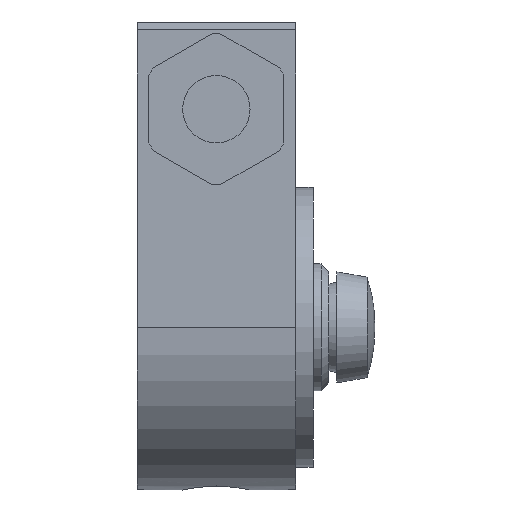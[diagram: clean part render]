
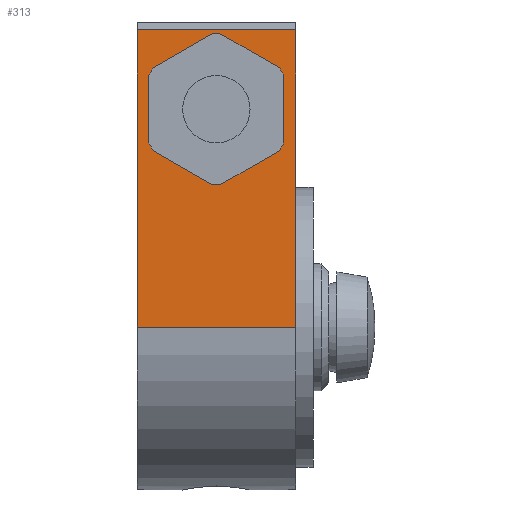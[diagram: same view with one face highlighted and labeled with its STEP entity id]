
A CAD part, left-side view. The second image highlights one B-rep face of the part: STEP entity #313.
In plain terms, the highlighted planar face has unit normal (-1, 0, 0).
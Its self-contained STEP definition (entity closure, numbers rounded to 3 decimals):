
#313=ADVANCED_FACE('',(#983,#984),#982,.T.);
#982=PLANE('',#2586);
#983=FACE_OUTER_BOUND('',#2587,.T.);
#984=FACE_BOUND('',#2588,.T.);
#2583=CARTESIAN_POINT('',(10.,-12.,-31.25));
#2584=DIRECTION('',(-1.,0.,0.));
#2585=DIRECTION('',(0.,0.,1.));
#2586=AXIS2_PLACEMENT_3D('',#2583,#2584,#2585);
#2587=EDGE_LOOP('',(#3632,#3633,#3634,#3635));
#2588=EDGE_LOOP('',(#3636,#3637,#3638,#3639,#3640,#3641,#3642,#3643,#3644,#3645,#3646,#3647));
#3632=ORIENTED_EDGE('',*,*,#4348,.F.);
#3633=ORIENTED_EDGE('',*,*,#4347,.F.);
#3634=ORIENTED_EDGE('',*,*,#4349,.T.);
#3635=ORIENTED_EDGE('',*,*,#4350,.T.);
#3636=ORIENTED_EDGE('',*,*,#4351,.F.);
#3637=ORIENTED_EDGE('',*,*,#4352,.F.);
#3638=ORIENTED_EDGE('',*,*,#4353,.F.);
#3639=ORIENTED_EDGE('',*,*,#4354,.F.);
#3640=ORIENTED_EDGE('',*,*,#4355,.F.);
#3641=ORIENTED_EDGE('',*,*,#4356,.F.);
#3642=ORIENTED_EDGE('',*,*,#4357,.F.);
#3643=ORIENTED_EDGE('',*,*,#4358,.F.);
#3644=ORIENTED_EDGE('',*,*,#4359,.F.);
#3645=ORIENTED_EDGE('',*,*,#4360,.F.);
#3646=ORIENTED_EDGE('',*,*,#4361,.F.);
#3647=ORIENTED_EDGE('',*,*,#4362,.F.);
#4347=EDGE_CURVE('',#5467,#5453,#5474,.T.);
#4348=EDGE_CURVE('',#5453,#5480,#5481,.T.);
#4349=EDGE_CURVE('',#5467,#5487,#5488,.T.);
#4350=EDGE_CURVE('',#5487,#5480,#5494,.T.);
#4351=EDGE_CURVE('',#5500,#5501,#5502,.T.);
#4352=EDGE_CURVE('',#5508,#5500,#5509,.T.);
#4353=EDGE_CURVE('',#5515,#5508,#5516,.T.);
#4354=EDGE_CURVE('',#5522,#5515,#5523,.T.);
#4355=EDGE_CURVE('',#5529,#5522,#5530,.T.);
#4356=EDGE_CURVE('',#5536,#5529,#5537,.T.);
#4357=EDGE_CURVE('',#5543,#5536,#5544,.T.);
#4358=EDGE_CURVE('',#5550,#5543,#5551,.T.);
#4359=EDGE_CURVE('',#5557,#5550,#5558,.T.);
#4360=EDGE_CURVE('',#5564,#5557,#5565,.T.);
#4361=EDGE_CURVE('',#5571,#5564,#5572,.T.);
#4362=EDGE_CURVE('',#5501,#5571,#5578,.T.);
#5453=VERTEX_POINT('',#7883);
#5467=VERTEX_POINT('',#7891);
#5474=LINE('',#7895,#7896);
#5480=VERTEX_POINT('',#7898);
#5481=LINE('',#7899,#7900);
#5487=VERTEX_POINT('',#7902);
#5488=LINE('',#7903,#7904);
#5494=LINE('',#7906,#7907);
#5500=VERTEX_POINT('',#7909);
#5501=VERTEX_POINT('',#7910);
#5502=CIRCLE('',#7914,9.5);
#5508=VERTEX_POINT('',#7915);
#5509=LINE('',#7916,#7917);
#5515=VERTEX_POINT('',#7919);
#5516=CIRCLE('',#7923,9.5);
#5522=VERTEX_POINT('',#7924);
#5523=LINE('',#7925,#7926);
#5529=VERTEX_POINT('',#7928);
#5530=CIRCLE('',#7932,9.5);
#5536=VERTEX_POINT('',#7933);
#5537=LINE('',#7934,#7935);
#5543=VERTEX_POINT('',#7937);
#5544=CIRCLE('',#7941,9.5);
#5550=VERTEX_POINT('',#7942);
#5551=LINE('',#7943,#7944);
#5557=VERTEX_POINT('',#7946);
#5558=CIRCLE('',#7950,9.5);
#5564=VERTEX_POINT('',#7951);
#5565=LINE('',#7952,#7953);
#5571=VERTEX_POINT('',#7955);
#5572=CIRCLE('',#7959,9.5);
#5578=LINE('',#7960,#7961);
#7883=CARTESIAN_POINT('',(10.,-10.,10.));
#7891=CARTESIAN_POINT('',(10.,10.,10.));
#7895=CARTESIAN_POINT('',(10.,10.,10.));
#7896=VECTOR('',#7897,20.);
#7897=DIRECTION('',(0.,-1.,0.));
#7898=CARTESIAN_POINT('',(10.,-10.,-27.5));
#7899=CARTESIAN_POINT('',(10.,-10.,10.));
#7900=VECTOR('',#7901,37.5);
#7901=DIRECTION('',(0.,0.,-1.));
#7902=CARTESIAN_POINT('',(10.,10.,-27.5));
#7903=CARTESIAN_POINT('',(10.,10.,10.));
#7904=VECTOR('',#7905,37.5);
#7905=DIRECTION('',(0.,0.,-1.));
#7906=CARTESIAN_POINT('',(10.,10.,-27.5));
#7907=VECTOR('',#7908,20.);
#7908=DIRECTION('',(0.,-1.,0.));
#7909=CARTESIAN_POINT('',(10.,-0.576,9.483));
#7910=CARTESIAN_POINT('',(10.,0.576,9.483));
#7911=CARTESIAN_POINT('',(10.,0.,0.));
#7912=DIRECTION('',(-1.,0.,0.));
#7913=DIRECTION('',(0.,0.,-1.));
#7914=AXIS2_PLACEMENT_3D('',#7911,#7912,#7913);
#7915=CARTESIAN_POINT('',(10.,-7.924,5.24));
#7916=CARTESIAN_POINT('',(10.,-7.924,5.24));
#7917=VECTOR('',#7918,8.485);
#7918=DIRECTION('',(0.,0.866,0.5));
#7919=CARTESIAN_POINT('',(10.,-8.5,4.243));
#7920=CARTESIAN_POINT('',(10.,0.,0.));
#7921=DIRECTION('',(-1.,0.,0.));
#7922=DIRECTION('',(0.,0.,-1.));
#7923=AXIS2_PLACEMENT_3D('',#7920,#7921,#7922);
#7924=CARTESIAN_POINT('',(10.,-8.5,-4.243));
#7925=CARTESIAN_POINT('',(10.,-8.5,-4.243));
#7926=VECTOR('',#7927,8.485);
#7927=DIRECTION('',(0.,0.,1.));
#7928=CARTESIAN_POINT('',(10.,-7.924,-5.24));
#7929=CARTESIAN_POINT('',(10.,0.,0.));
#7930=DIRECTION('',(-1.,0.,0.));
#7931=DIRECTION('',(0.,0.,-1.));
#7932=AXIS2_PLACEMENT_3D('',#7929,#7930,#7931);
#7933=CARTESIAN_POINT('',(10.,-0.576,-9.483));
#7934=CARTESIAN_POINT('',(10.,-0.576,-9.483));
#7935=VECTOR('',#7936,8.485);
#7936=DIRECTION('',(0.,-0.866,0.5));
#7937=CARTESIAN_POINT('',(10.,0.576,-9.483));
#7938=CARTESIAN_POINT('',(10.,0.,0.));
#7939=DIRECTION('',(-1.,0.,0.));
#7940=DIRECTION('',(0.,0.061,-0.998));
#7941=AXIS2_PLACEMENT_3D('',#7938,#7939,#7940);
#7942=CARTESIAN_POINT('',(10.,7.924,-5.24));
#7943=CARTESIAN_POINT('',(10.,7.924,-5.24));
#7944=VECTOR('',#7945,8.485);
#7945=DIRECTION('',(0.,-0.866,-0.5));
#7946=CARTESIAN_POINT('',(10.,8.5,-4.243));
#7947=CARTESIAN_POINT('',(10.,0.,0.));
#7948=DIRECTION('',(-1.,0.,0.));
#7949=DIRECTION('',(0.,0.,-1.));
#7950=AXIS2_PLACEMENT_3D('',#7947,#7948,#7949);
#7951=CARTESIAN_POINT('',(10.,8.5,4.243));
#7952=CARTESIAN_POINT('',(10.,8.5,4.243));
#7953=VECTOR('',#7954,8.485);
#7954=DIRECTION('',(0.,0.,-1.));
#7955=CARTESIAN_POINT('',(10.,7.924,5.24));
#7956=CARTESIAN_POINT('',(10.,0.,0.));
#7957=DIRECTION('',(-1.,0.,0.));
#7958=DIRECTION('',(0.,0.,-1.));
#7959=AXIS2_PLACEMENT_3D('',#7956,#7957,#7958);
#7960=CARTESIAN_POINT('',(10.,0.576,9.483));
#7961=VECTOR('',#7962,8.485);
#7962=DIRECTION('',(0.,0.866,-0.5));
